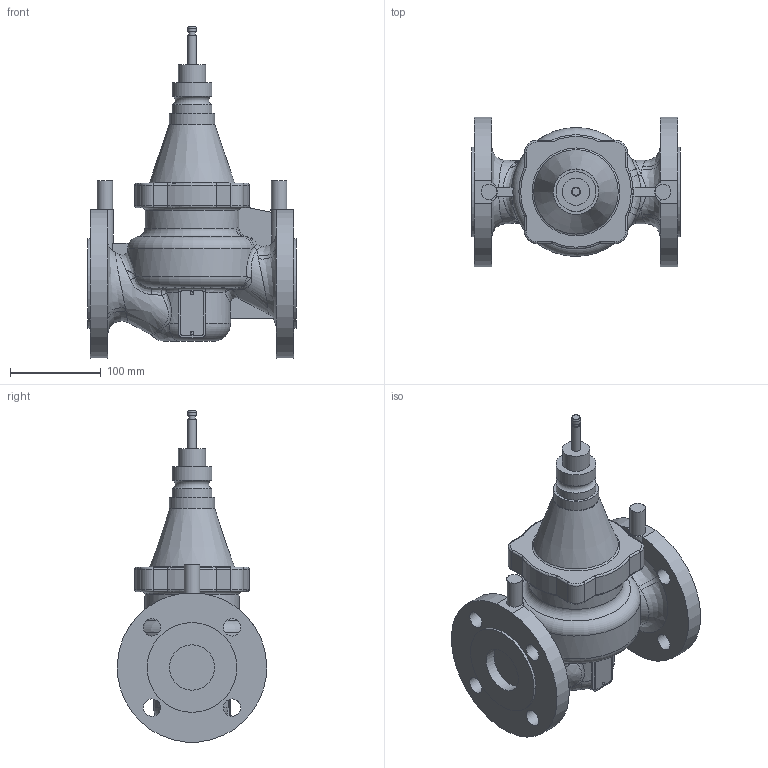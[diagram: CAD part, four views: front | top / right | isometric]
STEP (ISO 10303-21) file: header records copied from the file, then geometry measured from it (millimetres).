
FILE_DESCRIPTION(/* description */ (''),/* implementation_level */ '2;1');
FILE_NAME(/* name */ '',/* time_stamp */ '2012-11-05T13:05:23+01:00',/* author */ (''),/* organization */ (''),/* preprocessor_version */ 'ST-DEVELOPER v11',/* originating_system */ 'SIEMENS UGS NX 6.0',/* authorisation */ '');
FILE_SCHEMA (('AUTOMOTIVE_DESIGN { 1 0 10303 214 1 1 1 1 }'));
Length unit declared in the file: millimetre
Products named in the file (1): birk98A708zr
Bounding box: 230 x 164.79 x 366.2 mm (x, y, z)
Volume: 3328341.9 mm3; surface area: 234619.4 mm2
Topology: 1 solids, 1 shells, 195 faces, 478 edges, 291 vertices
Faces by surface type: cylinder 63, plane 51, bspline 48, torus 28, extrusion 3, cone 2
Full cylindrical faces by diameter (mm): 3.5 x2, 7 x1, 10 x2, 17 x2, 19 x8, 30 x1, 44 x2, 50 x3, 99 x2
Entity records: 7820 total; most frequent: CARTESIAN_POINT 3716, ORIENTED_EDGE 866, DIRECTION 773, EDGE_CURVE 433, AXIS2_PLACEMENT_3D 329, VERTEX_POINT 280, EDGE_LOOP 251, ADVANCED_FACE 195
